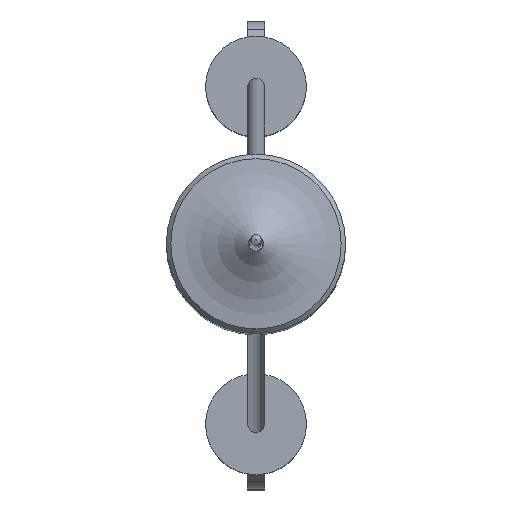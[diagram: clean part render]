
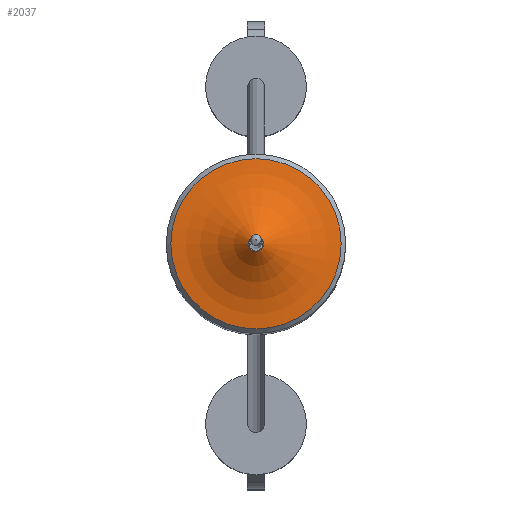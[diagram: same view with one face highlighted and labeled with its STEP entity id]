
A CAD part, top view. The second image highlights one B-rep face of the part: STEP entity #2037.
In plain terms, the highlighted toroidal (fillet/blend) face has major radius 4 mm and minor radius 5.203 mm.
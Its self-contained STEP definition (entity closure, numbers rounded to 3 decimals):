
#12 = CARTESIAN_POINT ( 'NONE',  ( -0.299, 0.172, -3.5 ) ) ;
#43 = AXIS2_PLACEMENT_3D ( 'NONE', #554, #1203, #216 ) ;
#82 = B_SPLINE_CURVE_WITH_KNOTS ( 'NONE', 3,
 ( #461, #597, #312, #632 ),
 .UNSPECIFIED., .F., .F.,
 ( 4, 4 ),
 ( 0., 0. ),
 .UNSPECIFIED. ) ;
#115 = CARTESIAN_POINT ( 'NONE',  ( -0.359, -0.067, -3.5 ) ) ;
#135 = CARTESIAN_POINT ( 'NONE',  ( -0.299, -0.172, -3.5 ) ) ;
#206 = EDGE_CURVE ( 'NONE', #842, #922, #431, .T. ) ;
#216 = DIRECTION ( 'NONE',  ( 1., 0., 0. ) ) ;
#312 = CARTESIAN_POINT ( 'NONE',  ( -0.238, 0.278, -3.5 ) ) ;
#317 = CARTESIAN_POINT ( 'NONE',  ( 0.359, -0.067, -3.5 ) ) ;
#340 = CARTESIAN_POINT ( 'NONE',  ( 0., 0.345, -3.5 ) ) ;
#350 = EDGE_CURVE ( 'NONE', #1764, #842, #504, .T. ) ;
#392 = CARTESIAN_POINT ( 'NONE',  ( 0.299, -0.172, -3.5 ) ) ;
#413 = CARTESIAN_POINT ( 'NONE',  ( 0.238, -0.278, -3.5 ) ) ;
#431 = B_SPLINE_CURVE_WITH_KNOTS ( 'NONE', 3,
 ( #1812, #317, #1470, #486 ),
 .UNSPECIFIED., .F., .F.,
 ( 4, 4 ),
 ( 0., 0. ),
 .UNSPECIFIED. ) ;
#461 = CARTESIAN_POINT ( 'NONE',  ( 0., 0.345, -3.5 ) ) ;
#474 = CIRCLE ( 'NONE', #1602, 3.796 ) ;
#486 = CARTESIAN_POINT ( 'NONE',  ( 0.299, 0.172, -3.5 ) ) ;
#504 = B_SPLINE_CURVE_WITH_KNOTS ( 'NONE', 3,
 ( #2012, #1499, #413, #392 ),
 .UNSPECIFIED., .F., .F.,
 ( 4, 4 ),
 ( 0., 0. ),
 .UNSPECIFIED. ) ;
#533 = EDGE_CURVE ( 'NONE', #1190, #1764, #1744, .T. ) ;
#554 = CARTESIAN_POINT ( 'NONE',  ( 0., 0., 0.203 ) ) ;
#580 = CARTESIAN_POINT ( 'NONE',  ( -0.121, -0.345, -3.5 ) ) ;
#581 = FACE_OUTER_BOUND ( 'NONE', #1289, .T. ) ;
#591 = ORIENTED_EDGE ( 'NONE', *, *, #2015, .F. ) ;
#597 = CARTESIAN_POINT ( 'NONE',  ( -0.121, 0.345, -3.5 ) ) ;
#604 = EDGE_CURVE ( 'NONE', #1062, #1062, #474, .T. ) ;
#606 = VERTEX_POINT ( 'NONE', #12 ) ;
#619 = TOROIDAL_SURFACE ( 'NONE', #43, 4., 5.203 ) ;
#632 = CARTESIAN_POINT ( 'NONE',  ( -0.299, 0.172, -3.5 ) ) ;
#663 = CARTESIAN_POINT ( 'NONE',  ( 0.299, 0.172, -3.5 ) ) ;
#701 = CARTESIAN_POINT ( 'NONE',  ( 0., 0.345, -3.5 ) ) ;
#718 = CARTESIAN_POINT ( 'NONE',  ( 0.299, 0.172, -3.5 ) ) ;
#842 = VERTEX_POINT ( 'NONE', #1815 ) ;
#873 = CARTESIAN_POINT ( 'NONE',  ( 3.796, 0., -4.996 ) ) ;
#879 = ORIENTED_EDGE ( 'NONE', *, *, #350, .F. ) ;
#907 = CARTESIAN_POINT ( 'NONE',  ( -0.299, -0.172, -3.5 ) ) ;
#916 = CARTESIAN_POINT ( 'NONE',  ( -0.299, 0.172, -3.5 ) ) ;
#922 = VERTEX_POINT ( 'NONE', #718 ) ;
#1062 = VERTEX_POINT ( 'NONE', #873 ) ;
#1079 = CARTESIAN_POINT ( 'NONE',  ( 0., -0.345, -3.5 ) ) ;
#1087 = CARTESIAN_POINT ( 'NONE',  ( -0.359, 0.067, -3.5 ) ) ;
#1170 = B_SPLINE_CURVE_WITH_KNOTS ( 'NONE', 3,
 ( #916, #1087, #115, #135 ),
 .UNSPECIFIED., .F., .F.,
 ( 4, 4 ),
 ( 0., 0. ),
 .UNSPECIFIED. ) ;
#1171 = ORIENTED_EDGE ( 'NONE', *, *, #206, .F. ) ;
#1190 = VERTEX_POINT ( 'NONE', #907 ) ;
#1198 = ORIENTED_EDGE ( 'NONE', *, *, #1694, .F. ) ;
#1203 = DIRECTION ( 'NONE',  ( 0., 0., 1. ) ) ;
#1289 = EDGE_LOOP ( 'NONE', ( #591, #1171, #879, #1952, #1413, #1198 ) ) ;
#1303 = DIRECTION ( 'NONE',  ( 0., 0., 1. ) ) ;
#1306 = CARTESIAN_POINT ( 'NONE',  ( 0.238, 0.278, -3.5 ) ) ;
#1413 = ORIENTED_EDGE ( 'NONE', *, *, #1770, .F. ) ;
#1455 = CARTESIAN_POINT ( 'NONE',  ( 0., 0., -4.996 ) ) ;
#1470 = CARTESIAN_POINT ( 'NONE',  ( 0.359, 0.067, -3.5 ) ) ;
#1487 = VERTEX_POINT ( 'NONE', #701 ) ;
#1499 = CARTESIAN_POINT ( 'NONE',  ( 0.121, -0.345, -3.5 ) ) ;
#1502 = B_SPLINE_CURVE_WITH_KNOTS ( 'NONE', 3,
 ( #663, #1306, #1801, #340 ),
 .UNSPECIFIED., .F., .F.,
 ( 4, 4 ),
 ( 0., 0. ),
 .UNSPECIFIED. ) ;
#1551 = CARTESIAN_POINT ( 'NONE',  ( -0.299, -0.172, -3.5 ) ) ;
#1586 = CARTESIAN_POINT ( 'NONE',  ( -0.238, -0.278, -3.5 ) ) ;
#1602 = AXIS2_PLACEMENT_3D ( 'NONE', #1455, #1303, #1788 ) ;
#1657 = EDGE_LOOP ( 'NONE', ( #1965 ) ) ;
#1687 = FACE_OUTER_BOUND ( 'NONE', #1657, .T. ) ;
#1694 = EDGE_CURVE ( 'NONE', #1487, #606, #82, .T. ) ;
#1744 = B_SPLINE_CURVE_WITH_KNOTS ( 'NONE', 3,
 ( #1551, #1586, #580, #1079 ),
 .UNSPECIFIED., .F., .F.,
 ( 4, 4 ),
 ( 0., 0. ),
 .UNSPECIFIED. ) ;
#1764 = VERTEX_POINT ( 'NONE', #1884 ) ;
#1770 = EDGE_CURVE ( 'NONE', #606, #1190, #1170, .T. ) ;
#1788 = DIRECTION ( 'NONE',  ( 1., 0., 0. ) ) ;
#1801 = CARTESIAN_POINT ( 'NONE',  ( 0.121, 0.345, -3.5 ) ) ;
#1812 = CARTESIAN_POINT ( 'NONE',  ( 0.299, -0.172, -3.5 ) ) ;
#1815 = CARTESIAN_POINT ( 'NONE',  ( 0.299, -0.172, -3.5 ) ) ;
#1884 = CARTESIAN_POINT ( 'NONE',  ( 0., -0.345, -3.5 ) ) ;
#1952 = ORIENTED_EDGE ( 'NONE', *, *, #533, .F. ) ;
#1965 = ORIENTED_EDGE ( 'NONE', *, *, #604, .T. ) ;
#2012 = CARTESIAN_POINT ( 'NONE',  ( 0., -0.345, -3.5 ) ) ;
#2015 = EDGE_CURVE ( 'NONE', #922, #1487, #1502, .T. ) ;
#2037 = ADVANCED_FACE ( 'NONE', ( #1687, #581 ), #619, .F. ) ;
